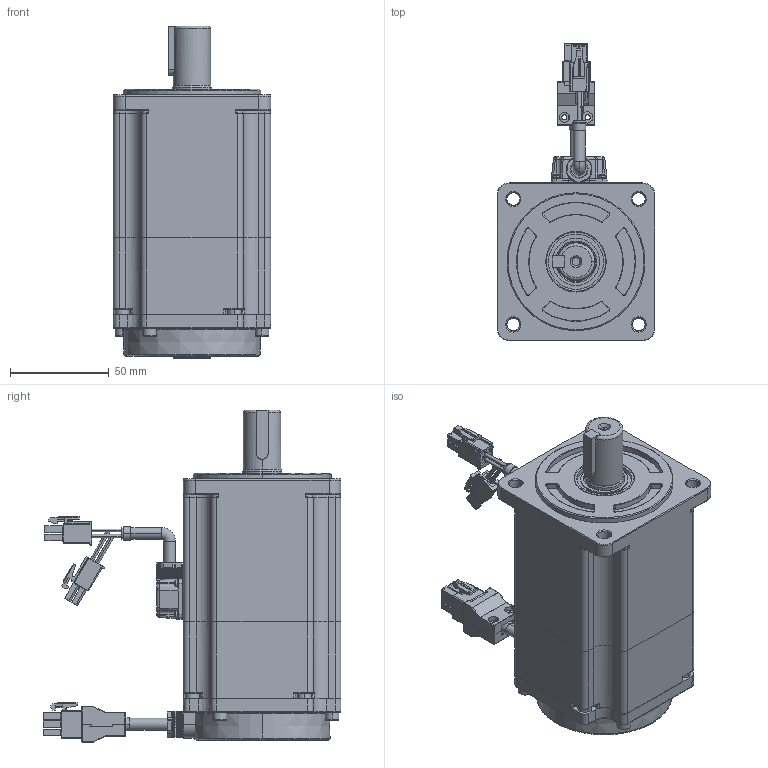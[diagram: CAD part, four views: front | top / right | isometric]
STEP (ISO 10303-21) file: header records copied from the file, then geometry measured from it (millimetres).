
FILE_DESCRIPTION (( 'STEP AP203' ), '1' );
FILE_NAME ('G3系列80ST-750W刹车电机三维图.STEP', '2021-05-31T00:53:42', ( '微软用户' ), ( '微软中国' ), 'SwSTEP 2.0', 'SolidWorks 2016', '' );
FILE_SCHEMA (( 'CONFIG_CONTROL_DESIGN' ));
Products named in the file (1): G3系列80ST-750W刹车电机三维图
Bounding box: 80 x 151.2 x 168.5 mm (x, y, z)
Volume: 302736.5 mm3; surface area: 151810 mm2
Topology: 30 solids, 30 shells, 4348 faces, 10838 edges, 6667 vertices
Faces by surface type: plane 2487, cylinder 864, cone 554, bspline 201, torus 182, sphere 60
Entity records: 134498 total; most frequent: CARTESIAN_POINT 31584, ORIENTED_EDGE 21584, DIRECTION 21382, EDGE_CURVE 10792, AXIS2_PLACEMENT_3D 7303, VECTOR 6776, LINE 6776, VERTEX_POINT 6667
